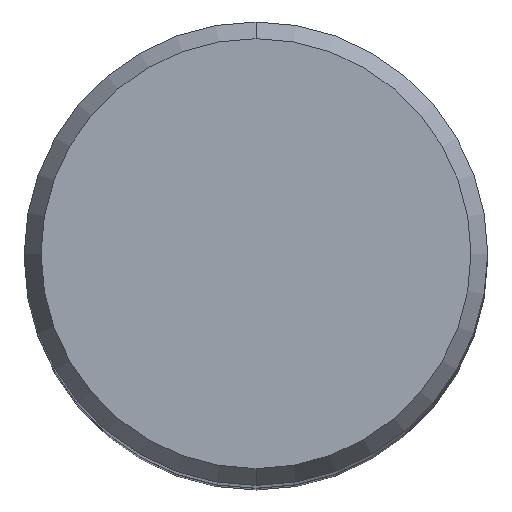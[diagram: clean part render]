
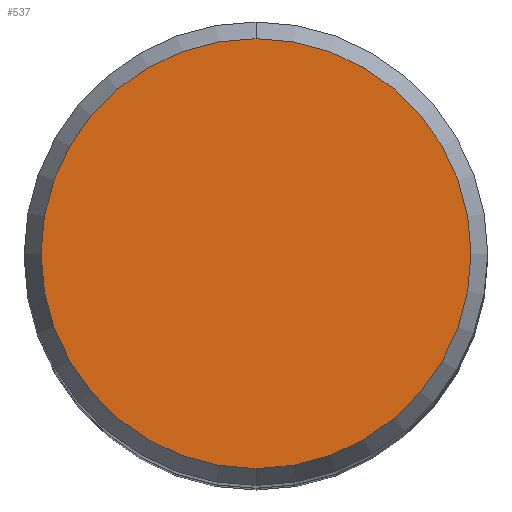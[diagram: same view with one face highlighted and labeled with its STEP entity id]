
A CAD part, top view. The second image highlights one B-rep face of the part: STEP entity #537.
In plain terms, the highlighted planar face has unit normal (0, 0, 1).
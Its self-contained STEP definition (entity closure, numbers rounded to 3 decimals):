
#259=EDGE_CURVE('',#449,#589,#652,.T.);
#283=EDGE_CURVE('',#589,#449,#679,.T.);
#449=VERTEX_POINT('',#866);
#537=ADVANCED_FACE('',(#964),#965,.T.);
#589=VERTEX_POINT('',#1023);
#652=CIRCLE('',#1142,7.423);
#679=CIRCLE('',#1216,7.423);
#866=CARTESIAN_POINT('',(0.,-7.423,0.0));
#964=FACE_OUTER_BOUND('',#1752,.T.);
#965=PLANE('',#1753);
#1023=CARTESIAN_POINT('',(0.0,7.423,0.0));
#1142=AXIS2_PLACEMENT_3D('',#1885,#1886,#1887);
#1216=AXIS2_PLACEMENT_3D('',#1921,#1922,#1923);
#1752=EDGE_LOOP('',(#2269,#2270));
#1753=AXIS2_PLACEMENT_3D('',#2271,#2272,#2273);
#1885=CARTESIAN_POINT('',(0.0,0.0,0.0));
#1886=DIRECTION('',(0.0,0.0,-1.0));
#1887=DIRECTION('',(0.0,1.0,0.0));
#1921=CARTESIAN_POINT('',(0.0,0.0,0.0));
#1922=DIRECTION('',(0.0,0.0,-1.0));
#1923=DIRECTION('',(0.0,1.0,0.0));
#2269=ORIENTED_EDGE('',*,*,#283,.F.);
#2270=ORIENTED_EDGE('',*,*,#259,.F.);
#2271=CARTESIAN_POINT('',(0.0,3.711,0.0));
#2272=DIRECTION('',(-0.0,0.0,1.0));
#2273=DIRECTION('',(0.0,-1.0,0.0));
